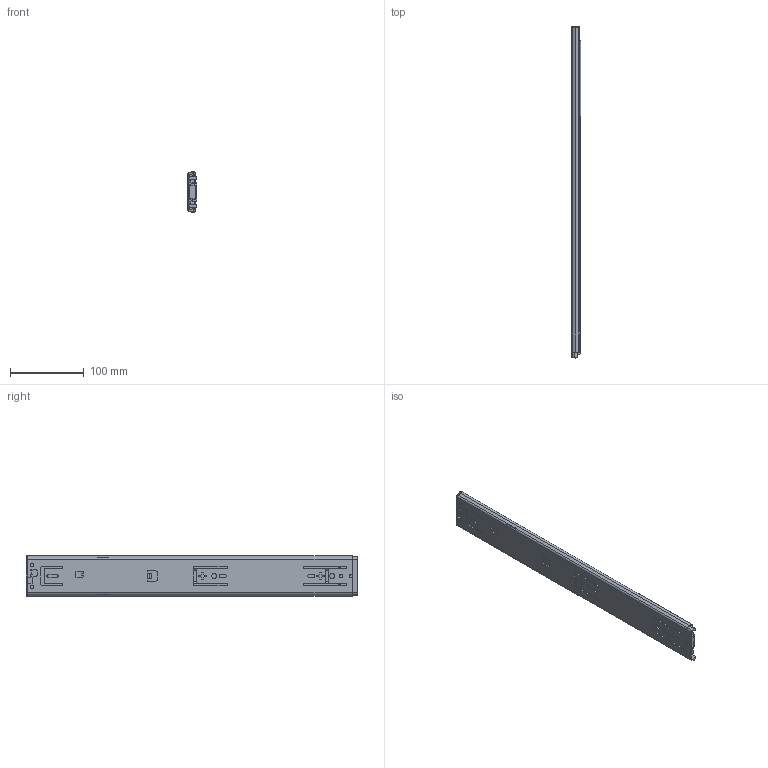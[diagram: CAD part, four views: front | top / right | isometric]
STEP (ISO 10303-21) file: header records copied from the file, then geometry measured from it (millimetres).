
FILE_DESCRIPTION( ( 'Unknown' ), '1' );
FILE_NAME( 'C:/Users/rd30/Desktop/85A01-450-Close.stp', 'Unknown', ( 'Unknown' ), ( 'Unknown' ), 'PSStep 14.0', 'Unknown', ' ' );
FILE_SCHEMA( ( 'AUTOMOTIVE_DESIGN { 1 0 10303 214 1 1 1 1 }' ) );
Length unit declared in the file: millimetre
Products named in the file (8): P10-366-3-1; P10-367-130429; 本體(卡式)20130423-\X2\4FEE6A21571\X0\; Assem1; 85A01P11-02-450; 85A01P21-03-450; 85A01P30-04-450; 85A01P30-04-B
Assembly tree (7 placements, depth 3):
  Assem1
    85A01P11-02-450
    85A01P21-03-450
    85A01P30-04-450
    85A01P30-04-B
    P10-366-3-1
      P10-367-130429
      本體(卡式)20130423-\X2\4FEE6A21571\X0\
Bounding box: 12.6 x 450 x 55.37 mm (x, y, z)
Volume: 168946.1 mm3; surface area: 143769.8 mm2
Topology: 6 solids, 6 shells, 610 faces, 1740 edges, 1140 vertices
Faces by surface type: plane 300, cylinder 258, cone 24, torus 24, bspline 2, sphere 2
Full cylindrical faces by diameter (mm): 1.4 x1, 3 x1, 3.2 x1, 4.6 x1, 5 x4, 5.1 x1, 5.5 x1, 6.25 x1, 6.4 x2
Entity records: 25308 total; most frequent: CARTESIAN_POINT 3817, DIRECTION 3454, ORIENTED_EDGE 3422, EDGE_CURVE 1711, AXIS2_PLACEMENT_3D 1194, VERTEX_POINT 1129, LINE 1066, VECTOR 1066
